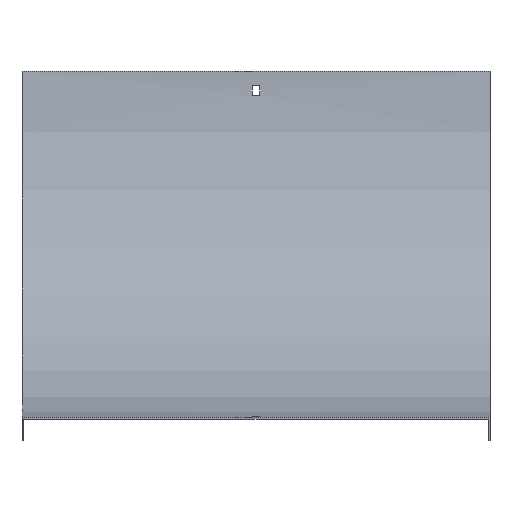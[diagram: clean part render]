
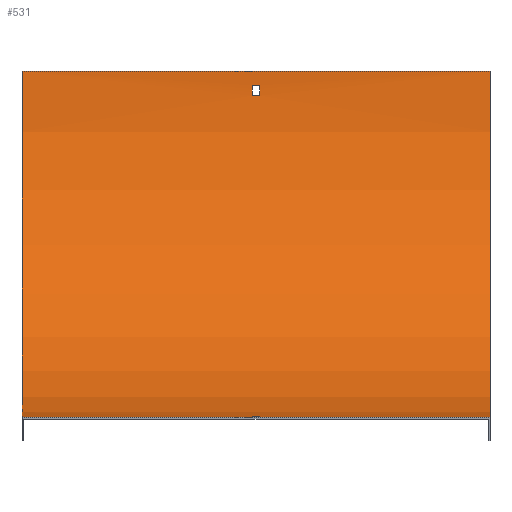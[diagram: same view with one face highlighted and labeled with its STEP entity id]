
A CAD part, top view. The second image highlights one B-rep face of the part: STEP entity #531.
In plain terms, the highlighted cylindrical face has radius 298.5 mm (diameter 597 mm), a partial arc.
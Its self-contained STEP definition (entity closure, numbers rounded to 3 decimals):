
#3 = CIRCLE ( 'NONE', #51, 298.5 ) ;
#7 = LINE ( 'NONE', #520, #338 ) ;
#9 = VERTEX_POINT ( 'NONE', #131 ) ;
#12 = VERTEX_POINT ( 'NONE', #269 ) ;
#14 = CIRCLE ( 'NONE', #379, 298.5 ) ;
#20 = VECTOR ( 'NONE', #214, 1000. ) ;
#22 = EDGE_CURVE ( 'NONE', #363, #281, #120, .T. ) ;
#28 = CARTESIAN_POINT ( 'NONE',  ( 201.5, 298.5, -298.5 ) ) ;
#30 = VERTEX_POINT ( 'NONE', #553 ) ;
#37 = ORIENTED_EDGE ( 'NONE', *, *, #560, .F. ) ;
#38 = FACE_BOUND ( 'NONE', #144, .T. ) ;
#39 = ORIENTED_EDGE ( 'NONE', *, *, #478, .T. ) ;
#46 = LINE ( 'NONE', #462, #367 ) ;
#49 = CARTESIAN_POINT ( 'NONE',  ( -3.25, 277.5, -297.76 ) ) ;
#51 = AXIS2_PLACEMENT_3D ( 'NONE', #528, #282, #103 ) ;
#52 = CARTESIAN_POINT ( 'NONE',  ( 201.5, 0., 0. ) ) ;
#59 = DIRECTION ( 'NONE',  ( -1., 0., 0. ) ) ;
#62 = CARTESIAN_POINT ( 'NONE',  ( -3.25, 0.74, -21. ) ) ;
#67 = DIRECTION ( 'NONE',  ( -1., 0., 0. ) ) ;
#89 = CARTESIAN_POINT ( 'NONE',  ( 201.5, 0.74, -21. ) ) ;
#94 = DIRECTION ( 'NONE',  ( -1., 0., 0. ) ) ;
#96 = CARTESIAN_POINT ( 'NONE',  ( 201.5, 286.5, -298.259 ) ) ;
#98 = DIRECTION ( 'NONE',  ( 0., 0., 1. ) ) ;
#103 = DIRECTION ( 'NONE',  ( 0., 0., 1. ) ) ;
#107 = VECTOR ( 'NONE', #182, 1000. ) ;
#110 = EDGE_CURVE ( 'NONE', #211, #587, #7, .T. ) ;
#120 = CIRCLE ( 'NONE', #434, 298.5 ) ;
#123 = CARTESIAN_POINT ( 'NONE',  ( 201.5, 298.5, -298.5 ) ) ;
#125 = VERTEX_POINT ( 'NONE', #470 ) ;
#131 = CARTESIAN_POINT ( 'NONE',  ( -3.25, 286.5, -298.259 ) ) ;
#135 = CYLINDRICAL_SURFACE ( 'NONE', #315, 298.5 ) ;
#139 = AXIS2_PLACEMENT_3D ( 'NONE', #273, #335, #98 ) ;
#144 = EDGE_LOOP ( 'NONE', ( #472, #410, #39, #309 ) ) ;
#149 = CARTESIAN_POINT ( 'NONE',  ( 3.25, 286.5, -298.259 ) ) ;
#153 = DIRECTION ( 'NONE',  ( 0., 0., -1. ) ) ;
#155 = EDGE_CURVE ( 'NONE', #361, #30, #565, .T. ) ;
#164 = CARTESIAN_POINT ( 'NONE',  ( -201.5, 298.5, -298.5 ) ) ;
#168 = ORIENTED_EDGE ( 'NONE', *, *, #155, .F. ) ;
#175 = EDGE_CURVE ( 'NONE', #9, #594, #14, .T. ) ;
#182 = DIRECTION ( 'NONE',  ( 1., 0., 0. ) ) ;
#187 = DIRECTION ( 'NONE',  ( -1., 0., 0. ) ) ;
#194 = DIRECTION ( 'NONE',  ( -1., 0., 0. ) ) ;
#201 = EDGE_CURVE ( 'NONE', #12, #211, #456, .T. ) ;
#211 = VERTEX_POINT ( 'NONE', #396 ) ;
#214 = DIRECTION ( 'NONE',  ( -1., 0., 0. ) ) ;
#228 = CARTESIAN_POINT ( 'NONE',  ( -3.25, 298.5, 0. ) ) ;
#250 = VERTEX_POINT ( 'NONE', #62 ) ;
#252 = DIRECTION ( 'NONE',  ( 0., 0., 1. ) ) ;
#269 = CARTESIAN_POINT ( 'NONE',  ( 3.25, 0.74, -21. ) ) ;
#272 = FACE_BOUND ( 'NONE', #322, .T. ) ;
#273 = CARTESIAN_POINT ( 'NONE',  ( 201.5, 298.5, 0. ) ) ;
#280 = LINE ( 'NONE', #52, #388 ) ;
#281 = VERTEX_POINT ( 'NONE', #149 ) ;
#282 = DIRECTION ( 'NONE',  ( 1., 0., 0. ) ) ;
#291 = ORIENTED_EDGE ( 'NONE', *, *, #175, .F. ) ;
#298 = CARTESIAN_POINT ( 'NONE',  ( -201.5, 298.5, 0. ) ) ;
#304 = AXIS2_PLACEMENT_3D ( 'NONE', #298, #67, #252 ) ;
#309 = ORIENTED_EDGE ( 'NONE', *, *, #201, .T. ) ;
#310 = EDGE_CURVE ( 'NONE', #587, #250, #3, .T. ) ;
#315 = AXIS2_PLACEMENT_3D ( 'NONE', #507, #187, #332 ) ;
#317 = FACE_OUTER_BOUND ( 'NONE', #438, .T. ) ;
#322 = EDGE_LOOP ( 'NONE', ( #291, #37, #524, #447 ) ) ;
#324 = DIRECTION ( 'NONE',  ( 1., 0., 0. ) ) ;
#332 = DIRECTION ( 'NONE',  ( 0., 0., 1. ) ) ;
#335 = DIRECTION ( 'NONE',  ( -1., 0., 0. ) ) ;
#337 = DIRECTION ( 'NONE',  ( 0., 1., 0. ) ) ;
#338 = VECTOR ( 'NONE', #469, 1000. ) ;
#350 = CARTESIAN_POINT ( 'NONE',  ( 3.25, 277.5, -297.76 ) ) ;
#355 = ORIENTED_EDGE ( 'NONE', *, *, #450, .T. ) ;
#361 = VERTEX_POINT ( 'NONE', #123 ) ;
#363 = VERTEX_POINT ( 'NONE', #350 ) ;
#367 = VECTOR ( 'NONE', #324, 1000. ) ;
#376 = CIRCLE ( 'NONE', #304, 298.5 ) ;
#378 = EDGE_CURVE ( 'NONE', #361, #405, #451, .T. ) ;
#379 = AXIS2_PLACEMENT_3D ( 'NONE', #228, #194, #337 ) ;
#388 = VECTOR ( 'NONE', #427, 1000. ) ;
#396 = CARTESIAN_POINT ( 'NONE',  ( 3.25, 0.241, -12. ) ) ;
#405 = VERTEX_POINT ( 'NONE', #164 ) ;
#409 = AXIS2_PLACEMENT_3D ( 'NONE', #529, #59, #153 ) ;
#410 = ORIENTED_EDGE ( 'NONE', *, *, #310, .T. ) ;
#413 = DIRECTION ( 'NONE',  ( 0., 0., 1. ) ) ;
#417 = VECTOR ( 'NONE', #94, 1000. ) ;
#427 = DIRECTION ( 'NONE',  ( -1., 0., 0. ) ) ;
#434 = AXIS2_PLACEMENT_3D ( 'NONE', #501, #455, #413 ) ;
#438 = EDGE_LOOP ( 'NONE', ( #355, #509, #168, #602 ) ) ;
#447 = ORIENTED_EDGE ( 'NONE', *, *, #488, .F. ) ;
#450 = EDGE_CURVE ( 'NONE', #405, #125, #376, .T. ) ;
#451 = LINE ( 'NONE', #28, #20 ) ;
#455 = DIRECTION ( 'NONE',  ( 1., 0., 0. ) ) ;
#456 = CIRCLE ( 'NONE', #409, 298.5 ) ;
#460 = LINE ( 'NONE', #89, #107 ) ;
#462 = CARTESIAN_POINT ( 'NONE',  ( 201.5, 277.5, -297.76 ) ) ;
#469 = DIRECTION ( 'NONE',  ( -1., 0., 0. ) ) ;
#470 = CARTESIAN_POINT ( 'NONE',  ( -201.5, 0., 0. ) ) ;
#472 = ORIENTED_EDGE ( 'NONE', *, *, #110, .T. ) ;
#478 = EDGE_CURVE ( 'NONE', #250, #12, #460, .T. ) ;
#488 = EDGE_CURVE ( 'NONE', #594, #363, #46, .T. ) ;
#501 = CARTESIAN_POINT ( 'NONE',  ( 3.25, 298.5, 0. ) ) ;
#507 = CARTESIAN_POINT ( 'NONE',  ( 201.5, 298.5, 0. ) ) ;
#509 = ORIENTED_EDGE ( 'NONE', *, *, #604, .F. ) ;
#520 = CARTESIAN_POINT ( 'NONE',  ( 201.5, 0.241, -12. ) ) ;
#524 = ORIENTED_EDGE ( 'NONE', *, *, #22, .F. ) ;
#528 = CARTESIAN_POINT ( 'NONE',  ( -3.25, 298.5, 0. ) ) ;
#529 = CARTESIAN_POINT ( 'NONE',  ( 3.25, 298.5, 0. ) ) ;
#531 = ADVANCED_FACE ( 'NONE', ( #317, #38, #272 ), #135, .F. ) ;
#553 = CARTESIAN_POINT ( 'NONE',  ( 201.5, 0., 0. ) ) ;
#560 = EDGE_CURVE ( 'NONE', #281, #9, #606, .T. ) ;
#565 = CIRCLE ( 'NONE', #139, 298.5 ) ;
#566 = CARTESIAN_POINT ( 'NONE',  ( -3.25, 0.241, -12. ) ) ;
#587 = VERTEX_POINT ( 'NONE', #566 ) ;
#594 = VERTEX_POINT ( 'NONE', #49 ) ;
#602 = ORIENTED_EDGE ( 'NONE', *, *, #378, .T. ) ;
#604 = EDGE_CURVE ( 'NONE', #30, #125, #280, .T. ) ;
#606 = LINE ( 'NONE', #96, #417 ) ;
